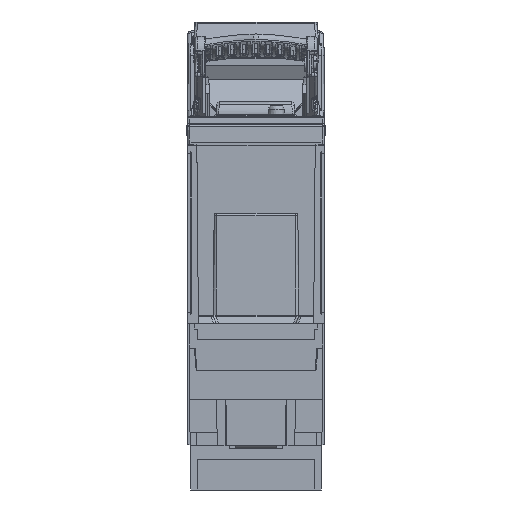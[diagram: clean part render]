
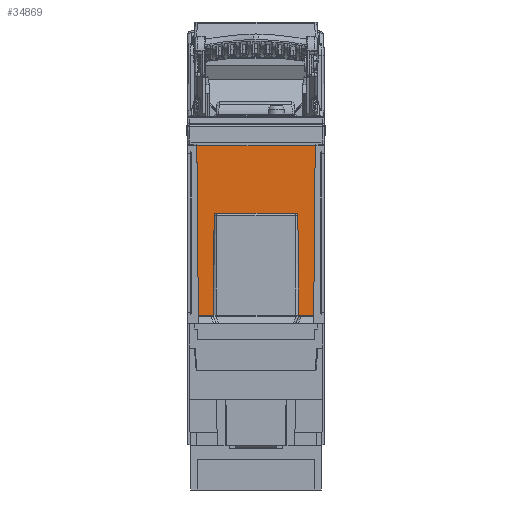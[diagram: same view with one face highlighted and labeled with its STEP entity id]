
A CAD part, left-side view. The second image highlights one B-rep face of the part: STEP entity #34869.
In plain terms, the highlighted planar face has unit normal (-1, 0, 0).
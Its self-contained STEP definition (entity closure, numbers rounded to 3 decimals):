
#13809=LINE('',#173263,#22325);
#18917=LINE('',#226457,#27452);
#18920=LINE('',#226465,#27455);
#18923=LINE('',#226473,#27458);
#18928=LINE('',#226488,#27463);
#18929=LINE('',#226490,#27464);
#19404=LINE('',#234085,#27939);
#19405=LINE('',#234087,#27940);
#22325=VECTOR('',#136083,1.);
#27452=VECTOR('',#153508,1.);
#27455=VECTOR('',#153517,1.);
#27458=VECTOR('',#153526,1.);
#27463=VECTOR('',#153537,1.);
#27464=VECTOR('',#153538,1.);
#27939=VECTOR('',#156035,1.);
#27940=VECTOR('',#156038,1.);
#34869=ADVANCED_FACE('',(#44226),#37608,.T.);
#37608=PLANE('',#128287);
#44226=FACE_OUTER_BOUND('',#51488,.T.);
#51488=EDGE_LOOP('',(#85618,#85619,#85620,#85621,#85622,#85623,#85624,#85625,
#85626,#85627));
#85618=ORIENTED_EDGE('',*,*,#115325,.T.);
#85619=ORIENTED_EDGE('',*,*,#102510,.T.);
#85620=ORIENTED_EDGE('',*,*,#115324,.T.);
#85621=ORIENTED_EDGE('',*,*,#113883,.T.);
#85622=ORIENTED_EDGE('',*,*,#113868,.T.);
#85623=ORIENTED_EDGE('',*,*,#113870,.T.);
#85624=ORIENTED_EDGE('',*,*,#113872,.T.);
#85625=ORIENTED_EDGE('',*,*,#113874,.T.);
#85626=ORIENTED_EDGE('',*,*,#113876,.T.);
#85627=ORIENTED_EDGE('',*,*,#113882,.T.);
#90090=VERTEX_POINT('',#173262);
#90091=VERTEX_POINT('',#173264);
#97112=VERTEX_POINT('',#226454);
#97113=VERTEX_POINT('',#226456);
#97114=VERTEX_POINT('',#226460);
#97115=VERTEX_POINT('',#226464);
#97116=VERTEX_POINT('',#226468);
#97117=VERTEX_POINT('',#226472);
#97121=VERTEX_POINT('',#226489);
#97122=VERTEX_POINT('',#226491);
#102510=EDGE_CURVE('',#90091,#90090,#13809,.T.);
#113868=EDGE_CURVE('',#97112,#97113,#18917,.T.);
#113870=EDGE_CURVE('',#97113,#97114,#118294,.T.);
#113872=EDGE_CURVE('',#97114,#97115,#18920,.T.);
#113874=EDGE_CURVE('',#97115,#97116,#118295,.T.);
#113876=EDGE_CURVE('',#97116,#97117,#18923,.T.);
#113882=EDGE_CURVE('',#97117,#97121,#18928,.T.);
#113883=EDGE_CURVE('',#97122,#97112,#18929,.T.);
#115324=EDGE_CURVE('',#90090,#97122,#19404,.T.);
#115325=EDGE_CURVE('',#97121,#90091,#19405,.T.);
#118294=CIRCLE('',#127267,1.);
#118295=CIRCLE('',#127270,1.);
#127267=AXIS2_PLACEMENT_3D('',#226461,#153512,#153513);
#127270=AXIS2_PLACEMENT_3D('',#226469,#153521,#153522);
#128287=AXIS2_PLACEMENT_3D('',#234088,#156039,#156040);
#136083=DIRECTION('',(0.,1.,0.));
#153508=DIRECTION('',(0.,-0.009,1.));
#153512=DIRECTION('',(1.,0.,0.));
#153513=DIRECTION('',(0.,0.,-1.));
#153517=DIRECTION('',(0.,-1.,0.));
#153521=DIRECTION('',(1.,0.,0.));
#153522=DIRECTION('',(0.,0.,1.));
#153526=DIRECTION('',(0.,-0.009,-1.));
#153537=DIRECTION('',(0.,-1.,0.));
#153538=DIRECTION('',(0.,-1.,0.));
#156035=DIRECTION('',(0.,-0.009,-1.));
#156038=DIRECTION('',(0.,-0.009,1.));
#156039=DIRECTION('',(-1.,0.,0.));
#156040=DIRECTION('',(0.,0.,1.));
#173262=CARTESIAN_POINT('',(-246.381,21.469,106.));
#173263=CARTESIAN_POINT('',(-246.381,24.058,106.));
#173264=CARTESIAN_POINT('',(-246.381,-21.487,106.));
#226454=CARTESIAN_POINT('',(-246.381,15.513,44.5));
#226456=CARTESIAN_POINT('',(-246.381,15.199,80.509));
#226457=CARTESIAN_POINT('',(-246.381,15.513,44.5));
#226460=CARTESIAN_POINT('',(-246.381,14.199,81.5));
#226461=CARTESIAN_POINT('',(-246.381,14.199,80.5));
#226464=CARTESIAN_POINT('',(-246.381,-14.199,81.5));
#226465=CARTESIAN_POINT('',(-246.381,24.058,81.5));
#226468=CARTESIAN_POINT('',(-246.381,-15.199,80.509));
#226469=CARTESIAN_POINT('',(-246.381,-14.199,80.5));
#226472=CARTESIAN_POINT('',(-246.381,-15.513,44.5));
#226473=CARTESIAN_POINT('',(-246.381,-15.199,80.509));
#226488=CARTESIAN_POINT('',(-246.381,24.058,44.5));
#226489=CARTESIAN_POINT('',(-246.381,-20.95,44.5));
#226490=CARTESIAN_POINT('',(-246.381,24.058,44.5));
#226491=CARTESIAN_POINT('',(-246.381,20.933,44.5));
#234085=CARTESIAN_POINT('',(-246.381,21.474,106.5));
#234087=CARTESIAN_POINT('',(-246.381,-20.687,14.319));
#234088=CARTESIAN_POINT('',(-246.381,24.058,14.));
